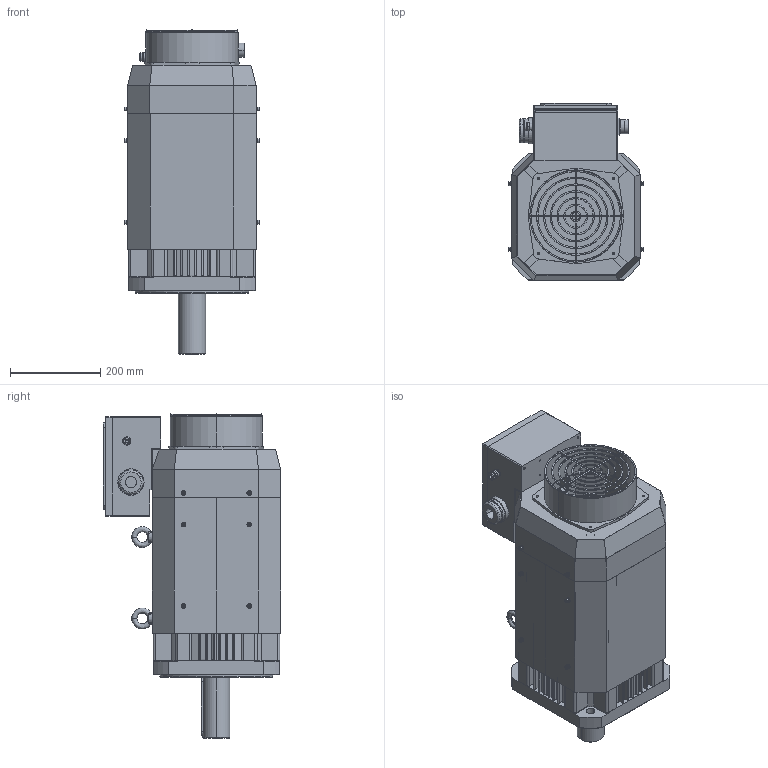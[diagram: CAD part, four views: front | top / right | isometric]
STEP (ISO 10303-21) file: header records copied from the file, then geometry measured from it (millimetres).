
FILE_DESCRIPTION (( 'STEP AP203' ), '1' );
FILE_NAME ('EMB-2BD.STEP', '2020-04-17T09:01:50', ( '' ), ( '' ), 'SwSTEP 2.0', 'SolidWorks 2018', '' );
FILE_SCHEMA (( 'CONFIG_CONTROL_DESIGN' ));
Length unit declared in the file: millimetre
Products named in the file (1): EMB-2BD
Bounding box: 299.34 x 392 x 717 mm (x, y, z)
Volume: 29893740.2 mm3; surface area: 2632275.2 mm2
Topology: 74 solids, 75 shells, 2058 faces, 4922 edges, 3057 vertices
Faces by surface type: plane 957, cylinder 755, cone 216, bspline 72, torus 58
Entity records: 65706 total; most frequent: CARTESIAN_POINT 17268, DIRECTION 10591, ORIENTED_EDGE 9588, EDGE_CURVE 4794, AXIS2_PLACEMENT_3D 4018, VERTEX_POINT 3057, LINE 2555, VECTOR 2555
